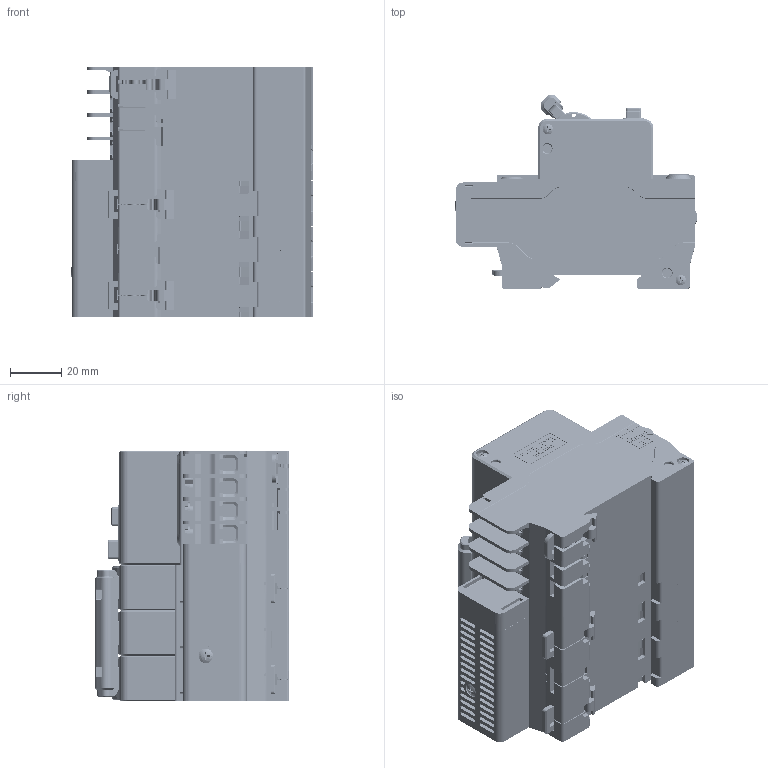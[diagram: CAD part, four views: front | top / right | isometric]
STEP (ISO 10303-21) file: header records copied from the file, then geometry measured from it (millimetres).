
FILE_DESCRIPTION((''),'2;1');
FILE_NAME('CDBHLE_3PN_32_2256020_SW0001','2019-12-23T',('dong.huang'),(''),'PRO/ENGINEER BY PARAMETRIC TECHNOLOGY CORPORATION, 2015440','PRO/ENGINEER BY PARAMETRIC TECHNOLOGY CORPORATION, 2015440','');
FILE_SCHEMA(('CONFIG_CONTROL_DESIGN'));
Products named in the file (1): CDBHLE_3PN_32_2256020_SW0001
Bounding box: 94.38 x 75.51 x 97.5 mm (x, y, z)
Volume: 325931.5 mm3; surface area: 132658.1 mm2
Topology: 4 solids, 37 shells, 12830 faces, 35953 edges, 23591 vertices
Faces by surface type: plane 8746, cylinder 2439, extrusion 959, cone 421, torus 117, sphere 93, bspline 55
Entity records: 418636 total; most frequent: CARTESIAN_POINT 88413, ORIENTED_EDGE 71710, DIRECTION 63618, EDGE_CURVE 35855, VECTOR 28026, LINE 27067, VERTEX_POINT 23591, AXIS2_PLACEMENT_3D 17796
